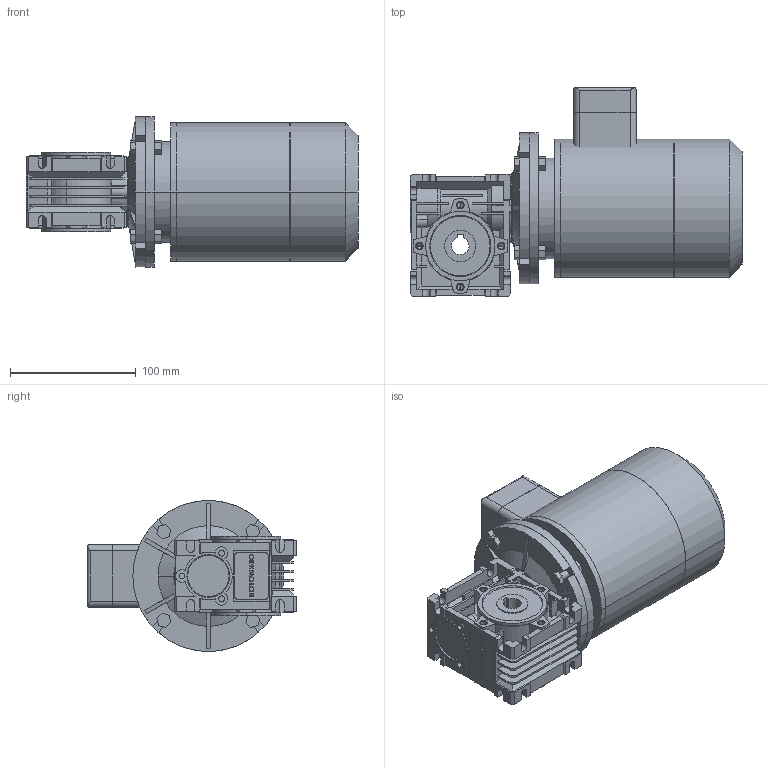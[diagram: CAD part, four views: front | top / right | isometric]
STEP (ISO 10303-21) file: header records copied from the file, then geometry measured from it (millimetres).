
FILE_DESCRIPTION( ( '' ), '1' );
FILE_NAME( '//expscmdclustefs.cadenas.external/client_exchange/iodir/jobs/output/wkb51871460_no0/STEP/NMRV0305111411100300T0561_2_03.stp', '2012-12-03T03:02:40', ( '' ), ( '' ), ' ', ' ', ' ' );
FILE_SCHEMA( ( 'CONFIG_CONTROL_DESIGN' ) );
Length unit declared in the file: millimetre
Products named in the file (7): 1; 2; 3; 4; 5; 6; 7
Bounding box: 264 x 166 x 120 mm (x, y, z)
Volume: 2156517.7 mm3; surface area: 256511.8 mm2
Topology: 7 solids, 14 shells, 970 faces, 2565 edges, 1662 vertices
Faces by surface type: plane 675, cylinder 231, cone 64
Entity records: 30482 total; most frequent: CARTESIAN_POINT 5956, ORIENTED_EDGE 5098, DIRECTION 4986, EDGE_CURVE 2549, LINE 1866, VECTOR 1866, VERTEX_POINT 1662, AXIS2_PLACEMENT_3D 1560
